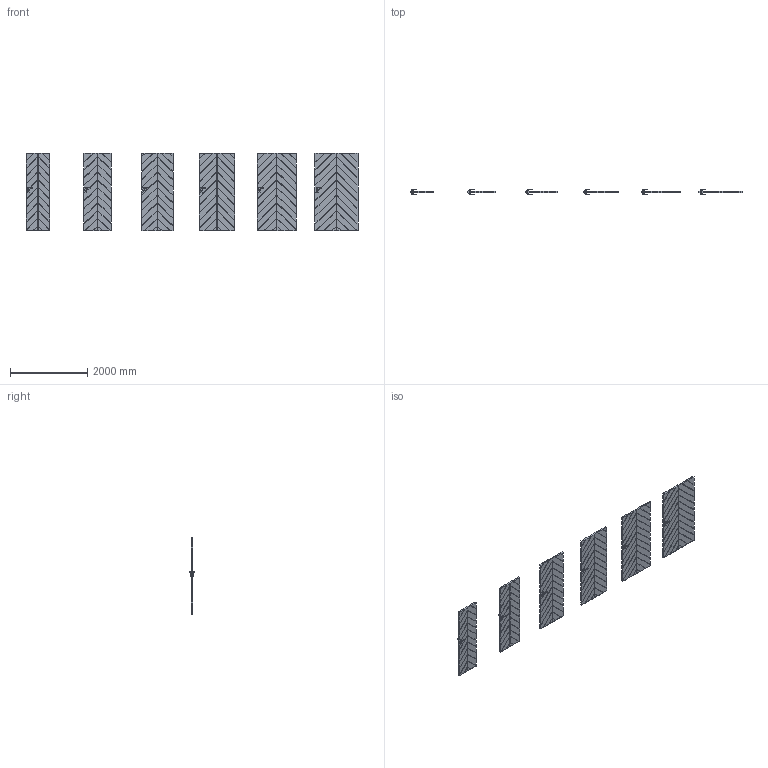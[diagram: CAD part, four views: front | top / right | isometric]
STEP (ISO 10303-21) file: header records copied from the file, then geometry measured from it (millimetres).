
FILE_DESCRIPTION(/* description */ (''),/* implementation_level */ '2;1');
FILE_NAME(/* name */ '049694_A_2-Skrzydło VECTOR J_ polska norma _PN__ bezprzylgowe..stp',/* time_stamp */ '2024-02-09T14:29:23+01:00',/* author */ (''),/* organization */ (''),/* preprocessor_version */ 'ST-DEVELOPER v16',/* originating_system */ 'SIEMENS PLM Software NX 11.0',/* authorisation */ '');
FILE_SCHEMA (('AUTOMOTIVE_DESIGN { 1 0 10303 214 3 1 1 1 }'));
Products named in the file (1): bkni8EE4756Al3ol
Bounding box: 8618 x 153.27 x 2017 mm (x, y, z)
Volume: 412733369.1 mm3; surface area: 22738815.4 mm2
Topology: 30 solids, 30 shells, 3960 faces, 10212 edges, 6192 vertices
Faces by surface type: cylinder 1960, plane 1640, bspline 192, sphere 168
Entity records: 124932 total; most frequent: CARTESIAN_POINT 28621, DIRECTION 20374, ORIENTED_EDGE 20088, EDGE_CURVE 10044, AXIS2_PLACEMENT_3D 6921, LINE 6532, VECTOR 6532, VERTEX_POINT 6192
